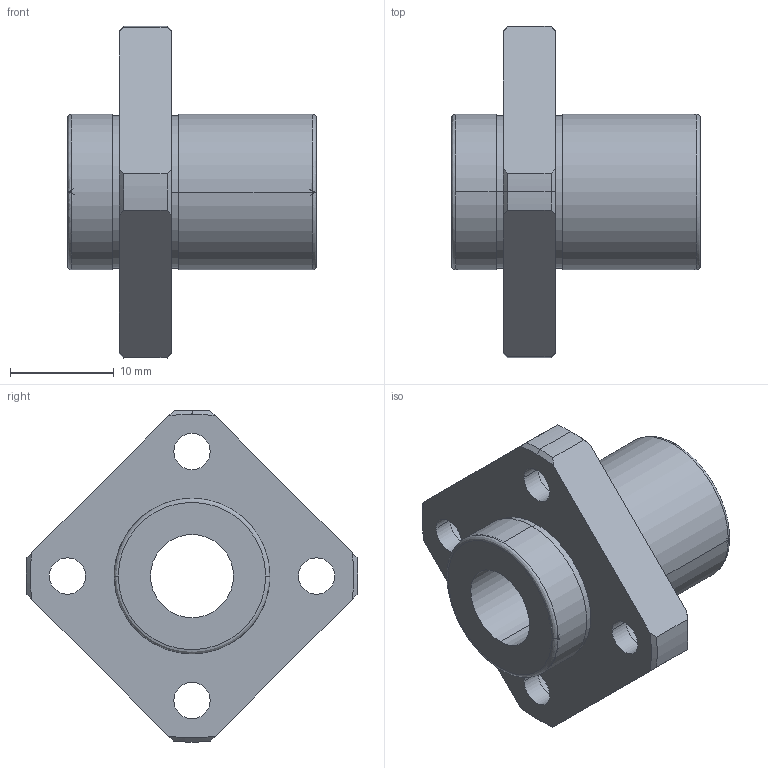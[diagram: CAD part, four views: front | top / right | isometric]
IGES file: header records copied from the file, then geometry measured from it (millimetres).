
Start section: 3D InterOp IGES (Version 21 0 1), Spatial Corp. Copyright (c) 1999-2007.
Global section: file name: NFIS-8VUU.igs; native system: Spatial Corp.; preprocessor: 3D InterOp GENERIC/IGES 3.0; author: Noname; organization: Noname; date: 20220308.112403; units: millimetre
Bounding box: 24 x 31.98 x 31.99 mm (x, y, z)
Surface area: 3670.2 mm2 (no closed solid volume)
Topology: 0 solids, 0 shells, 59 faces, 294 edges, 290 vertices
Faces by surface type: revolution 45, extrusion 14
